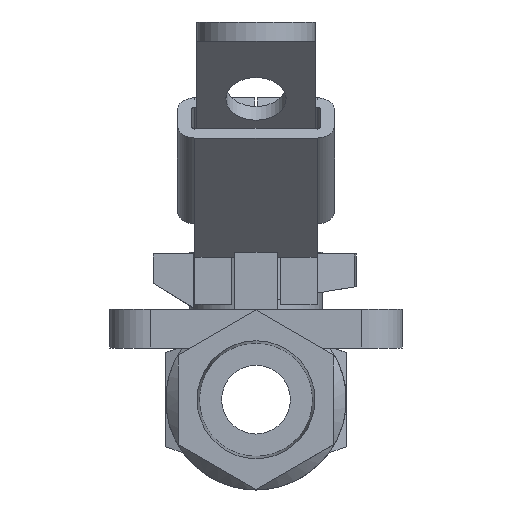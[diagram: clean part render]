
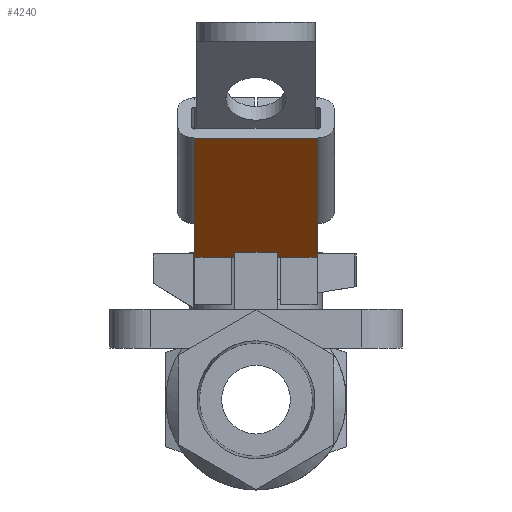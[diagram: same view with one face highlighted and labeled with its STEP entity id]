
A CAD part, left-side view. The second image highlights one B-rep face of the part: STEP entity #4240.
In plain terms, the highlighted planar face has unit normal (-0.707, 0, -0.707).
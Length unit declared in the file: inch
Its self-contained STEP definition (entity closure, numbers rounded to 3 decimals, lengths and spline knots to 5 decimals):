
#3286=CARTESIAN_POINT('',(0.6294,-0.13,0.75875));
#3287=VERTEX_POINT('',#3286);
#3328=CARTESIAN_POINT('',(0.6294,0.13,0.75875));
#3329=VERTEX_POINT('',#3328);
#3366=CARTESIAN_POINT('',(0.6294,0.13,0.75875));
#3367=DIRECTION('',(0.0,-1.0,0.0));
#3368=VECTOR('',#3367,0.26);
#3369=LINE('',#3366,#3368);
#3370=EDGE_CURVE('',#3329,#3287,#3369,.T.);
#3389=CARTESIAN_POINT('',(0.6294,0.325,0.75875));
#3390=VERTEX_POINT('',#3389);
#3391=CARTESIAN_POINT('',(0.6294,0.325,0.75875));
#3392=DIRECTION('',(0.0,-1.0,0.0));
#3393=VECTOR('',#3392,0.195);
#3394=LINE('',#3391,#3393);
#3395=EDGE_CURVE('',#3390,#3329,#3394,.T.);
#3428=CARTESIAN_POINT('',(0.6294,-0.325,0.75875));
#3429=VERTEX_POINT('',#3428);
#3436=CARTESIAN_POINT('',(0.6294,-0.13,0.75875));
#3437=DIRECTION('',(0.0,-1.0,0.0));
#3438=VECTOR('',#3437,0.195);
#3439=LINE('',#3436,#3438);
#3440=EDGE_CURVE('',#3287,#3429,#3439,.T.);
#3533=CARTESIAN_POINT('',(0.45262,0.325,0.93553));
#3534=VERTEX_POINT('',#3533);
#3535=CARTESIAN_POINT('',(0.45262,0.325,0.93553));
#3536=DIRECTION('',(0.707,0.0,-0.707));
#3537=VECTOR('',#3536,0.25);
#3538=LINE('',#3535,#3537);
#3539=EDGE_CURVE('',#3534,#3390,#3538,.T.);
#3574=CARTESIAN_POINT('',(0.45262,-0.325,0.93553));
#3575=VERTEX_POINT('',#3574);
#3582=CARTESIAN_POINT('',(0.45262,-0.325,0.93553));
#3583=DIRECTION('',(0.707,0.0,-0.707));
#3584=VECTOR('',#3583,0.25);
#3585=LINE('',#3582,#3584);
#3586=EDGE_CURVE('',#3575,#3429,#3585,.T.);
#3928=CARTESIAN_POINT('',(-0.00346,0.325,1.39161));
#3929=VERTEX_POINT('',#3928);
#3937=CARTESIAN_POINT('',(-0.00346,-0.325,1.39161));
#3938=VERTEX_POINT('',#3937);
#3939=CARTESIAN_POINT('',(-0.00346,-0.325,1.39161));
#3940=DIRECTION('',(0.0,1.0,0.0));
#3941=VECTOR('',#3940,0.65);
#3942=LINE('',#3939,#3941);
#3943=EDGE_CURVE('',#3938,#3929,#3942,.T.);
#4204=CARTESIAN_POINT('',(-0.00346,-0.325,1.39161));
#4205=DIRECTION('',(0.707,0.0,-0.707));
#4206=VECTOR('',#4205,0.645);
#4207=LINE('',#4204,#4206);
#4208=EDGE_CURVE('',#3938,#3575,#4207,.T.);
#4220=CARTESIAN_POINT('',(0.45262,-0.4175,0.93553));
#4221=DIRECTION('',(-0.707,0.,-0.707));
#4222=DIRECTION('',(0.0,-1.0,0.0));
#4223=AXIS2_PLACEMENT_3D('',#4220,#4221,#4222);
#4224=PLANE('',#4223);
#4225=ORIENTED_EDGE('',*,*,#4208,.F.);
#4226=ORIENTED_EDGE('',*,*,#3943,.T.);
#4227=CARTESIAN_POINT('',(0.45262,0.325,0.93553));
#4228=DIRECTION('',(-0.707,0.0,0.707));
#4229=VECTOR('',#4228,0.645);
#4230=LINE('',#4227,#4229);
#4231=EDGE_CURVE('',#3534,#3929,#4230,.T.);
#4232=ORIENTED_EDGE('',*,*,#4231,.F.);
#4233=ORIENTED_EDGE('',*,*,#3539,.T.);
#4234=ORIENTED_EDGE('',*,*,#3395,.T.);
#4235=ORIENTED_EDGE('',*,*,#3370,.T.);
#4236=ORIENTED_EDGE('',*,*,#3440,.T.);
#4237=ORIENTED_EDGE('',*,*,#3586,.F.);
#4238=EDGE_LOOP('',(#4225,#4226,#4232,#4233,#4234,#4235,#4236,#4237));
#4239=FACE_OUTER_BOUND('',#4238,.T.);
#4240=ADVANCED_FACE('',(#4239),#4224,.T.);
